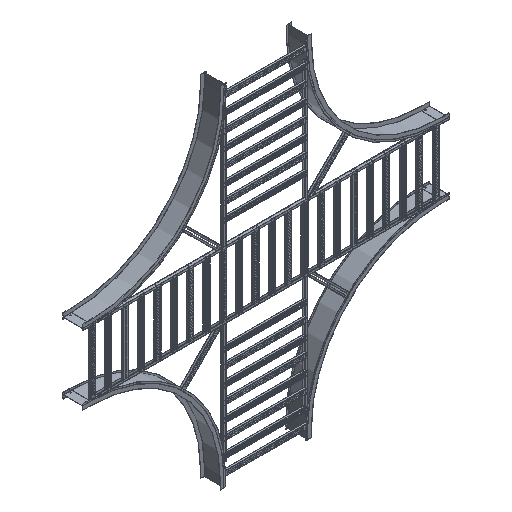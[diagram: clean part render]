
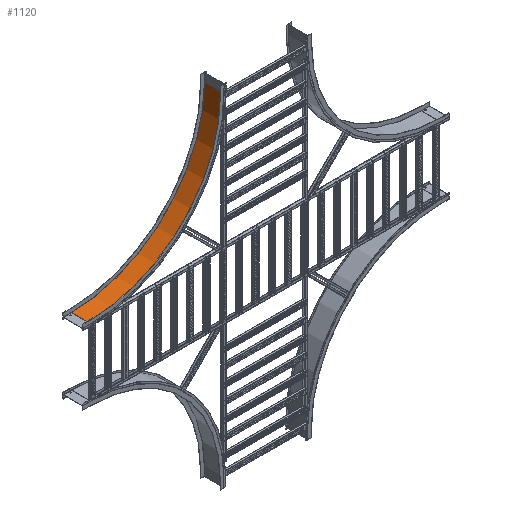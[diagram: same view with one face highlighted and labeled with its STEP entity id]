
A CAD part, isometric view. The second image highlights one B-rep face of the part: STEP entity #1120.
In plain terms, the highlighted cylindrical face has radius 1218.06 mm (diameter 2436.11 mm), a partial arc.
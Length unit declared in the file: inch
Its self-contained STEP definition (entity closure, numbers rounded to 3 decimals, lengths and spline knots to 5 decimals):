
#157=CARTESIAN_POINT('',(7.13,-48.,3.));
#158=DIRECTION('',(1.,0.,0.));
#159=DIRECTION('',(0.,1.,0.));
#160=AXIS2_PLACEMENT_3D('',#157,#158,#159);
#350=DIRECTION('',(1.,0.,0.));
#351=VECTOR('',#350,7.02);
#352=CARTESIAN_POINT('',(0.11,-48.,50.955));
#353=LINE('',#352,#351);
#390=DIRECTION('',(1.,0.,0.));
#391=VECTOR('',#390,7.02);
#392=CARTESIAN_POINT('',(0.11,-0.045,3.));
#393=LINE('',#392,#391);
#394=CARTESIAN_POINT('',(0.11,-48.,3.));
#395=DIRECTION('',(1.,0.,0.));
#396=DIRECTION('',(0.,1.,0.));
#397=AXIS2_PLACEMENT_3D('',#394,#395,#396);
#521=CARTESIAN_POINT('',(0.11,-0.045,3.));
#522=CARTESIAN_POINT('',(7.13,-0.045,3.));
#523=VERTEX_POINT('',#521);
#524=VERTEX_POINT('',#522);
#545=CARTESIAN_POINT('',(0.11,-48.,50.955));
#546=CARTESIAN_POINT('',(7.13,-48.,50.955));
#547=VERTEX_POINT('',#545);
#548=VERTEX_POINT('',#546);
#1109=CARTESIAN_POINT('',(-1.,-48.,3.));
#1110=DIRECTION('',(1.,0.,0.));
#1111=DIRECTION('',(0.,-1.,0.));
#1112=AXIS2_PLACEMENT_3D('',#1109,#1110,#1111);
#1113=CYLINDRICAL_SURFACE('',#1112,47.955);
#1114=ORIENTED_EDGE('',*,*,#894,.F.);
#1115=ORIENTED_EDGE('',*,*,#935,.T.);
#1116=ORIENTED_EDGE('',*,*,#1082,.T.);
#1117=ORIENTED_EDGE('',*,*,#872,.F.);
#1118=EDGE_LOOP('',(#1114,#1115,#1116,#1117));
#1119=FACE_OUTER_BOUND('',#1118,.F.);
#1120=ADVANCED_FACE('',(#1119),#1113,.F.);
#161=CIRCLE('',#160,47.955);
#398=CIRCLE('',#397,47.955);
#872=EDGE_CURVE('',#524,#548,#161,.T.);
#894=EDGE_CURVE('',#523,#524,#393,.T.);
#935=EDGE_CURVE('',#523,#547,#398,.T.);
#1082=EDGE_CURVE('',#547,#548,#353,.T.);
